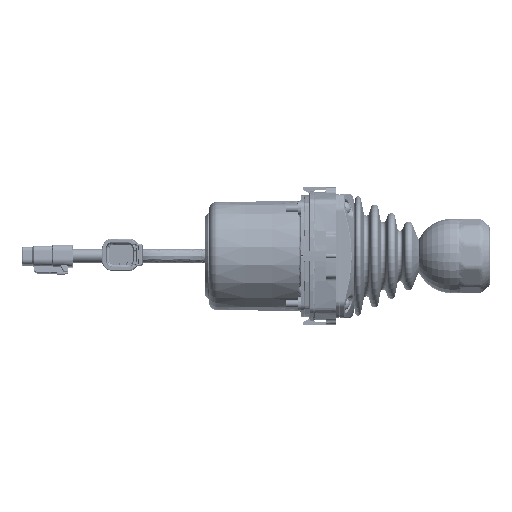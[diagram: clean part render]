
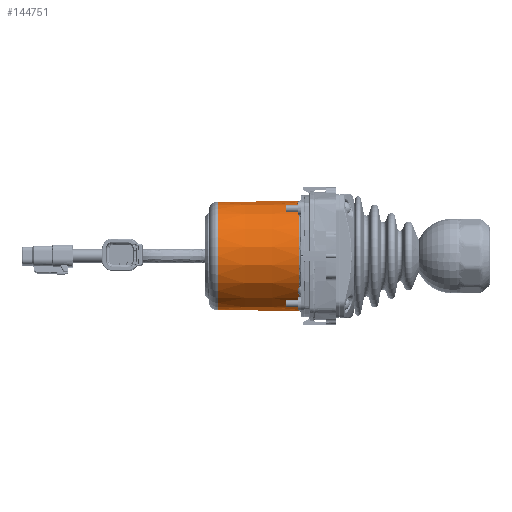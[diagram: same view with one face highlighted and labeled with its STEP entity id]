
A CAD part, left-side view. The second image highlights one B-rep face of the part: STEP entity #144751.
In plain terms, the highlighted conical face has half-angle 0.231 degrees and reference radius 32.494 mm.
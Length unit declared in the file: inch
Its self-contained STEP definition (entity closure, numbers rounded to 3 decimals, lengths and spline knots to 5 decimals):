
#1269 = CARTESIAN_POINT ( 'NONE',  ( 0., 2.01268, -1.27165 ) ) ;
#2420 = VERTEX_POINT ( 'NONE', #32521 ) ;
#4749 = EDGE_CURVE ( 'NONE', #234626, #244346, #249786, .T. ) ;
#6561 = VERTEX_POINT ( 'NONE', #298142 ) ;
#10731 = EDGE_CURVE ( 'NONE', #6561, #2420, #40371, .T. ) ;
#11442 = FACE_OUTER_BOUND ( 'NONE', #199676, .T. ) ;
#30932 = CARTESIAN_POINT ( 'NONE',  ( 0., 0.11787, -1.27929 ) ) ;
#32521 = CARTESIAN_POINT ( 'NONE',  ( 1.27929, 0.11787, 0. ) ) ;
#38034 = ORIENTED_EDGE ( 'NONE', *, *, #4749, .T. ) ;
#40371 = LINE ( 'NONE', #112363, #102627 ) ;
#51050 = CARTESIAN_POINT ( 'NONE',  ( 0., 2.01268, 0. ) ) ;
#51384 = CARTESIAN_POINT ( 'NONE',  ( -1.27929, 0.11787, 0. ) ) ;
#74549 = DIRECTION ( 'NONE',  ( 1., 0., 0. ) ) ;
#75632 = CARTESIAN_POINT ( 'NONE',  ( 0., 2.01268, 0. ) ) ;
#91966 = CONICAL_SURFACE ( 'NONE', #114023, 1.27929, 0.004 ) ;
#92901 = AXIS2_PLACEMENT_3D ( 'NONE', #237116, #96878, #260648 ) ;
#95915 = EDGE_CURVE ( 'NONE', #244346, #6561, #147343, .T. ) ;
#96878 = DIRECTION ( 'NONE',  ( 0., 1., 0. ) ) ;
#99199 = DIRECTION ( 'NONE',  ( 1., 0., 0. ) ) ;
#100961 = DIRECTION ( 'NONE',  ( 1., 0., 0. ) ) ;
#102627 = VECTOR ( 'NONE', #252544, 39.37008 ) ;
#106687 = CARTESIAN_POINT ( 'NONE',  ( -1.27929, 0.11787, 0. ) ) ;
#112363 = CARTESIAN_POINT ( 'NONE',  ( 1.27929, 0.11787, 0. ) ) ;
#114023 = AXIS2_PLACEMENT_3D ( 'NONE', #241157, #263673, #100961 ) ;
#119109 = DIRECTION ( 'NONE',  ( 0., 1., 0. ) ) ;
#136516 = CIRCLE ( 'NONE', #225546, 1.27929 ) ;
#144751 = ADVANCED_FACE ( 'NONE', ( #11442 ), #91966, .T. ) ;
#147343 = CIRCLE ( 'NONE', #266949, 1.27165 ) ;
#159401 = LINE ( 'NONE', #51384, #283867 ) ;
#181972 = ORIENTED_EDGE ( 'NONE', *, *, #275186, .F. ) ;
#189835 = EDGE_CURVE ( 'NONE', #272238, #205790, #136516, .T. ) ;
#199676 = EDGE_LOOP ( 'NONE', ( #181972, #38034, #259682, #248421, #251794, #293657 ) ) ;
#205790 = VERTEX_POINT ( 'NONE', #106687 ) ;
#214656 = DIRECTION ( 'NONE',  ( 0., -1., 0. ) ) ;
#215021 = DIRECTION ( 'NONE',  ( -0.004, -1., 0. ) ) ;
#216363 = EDGE_CURVE ( 'NONE', #2420, #272238, #226772, .T. ) ;
#225546 = AXIS2_PLACEMENT_3D ( 'NONE', #259294, #119109, #282868 ) ;
#226772 = CIRCLE ( 'NONE', #92901, 1.27929 ) ;
#234626 = VERTEX_POINT ( 'NONE', #285469 ) ;
#237116 = CARTESIAN_POINT ( 'NONE',  ( 0., 0.11787, 0. ) ) ;
#239394 = DIRECTION ( 'NONE',  ( 0., -1., 0. ) ) ;
#241157 = CARTESIAN_POINT ( 'NONE',  ( 0., 0.11787, 0. ) ) ;
#244346 = VERTEX_POINT ( 'NONE', #1269 ) ;
#248421 = ORIENTED_EDGE ( 'NONE', *, *, #10731, .T. ) ;
#249786 = CIRCLE ( 'NONE', #276766, 1.27165 ) ;
#251794 = ORIENTED_EDGE ( 'NONE', *, *, #216363, .T. ) ;
#252544 = DIRECTION ( 'NONE',  ( 0.004, -1., 0. ) ) ;
#259294 = CARTESIAN_POINT ( 'NONE',  ( 0., 0.11787, 0. ) ) ;
#259682 = ORIENTED_EDGE ( 'NONE', *, *, #95915, .T. ) ;
#260648 = DIRECTION ( 'NONE',  ( 1., 0., 0. ) ) ;
#263673 = DIRECTION ( 'NONE',  ( 0., -1., 0. ) ) ;
#266949 = AXIS2_PLACEMENT_3D ( 'NONE', #51050, #214656, #74549 ) ;
#272238 = VERTEX_POINT ( 'NONE', #30932 ) ;
#275186 = EDGE_CURVE ( 'NONE', #234626, #205790, #159401, .T. ) ;
#276766 = AXIS2_PLACEMENT_3D ( 'NONE', #75632, #239394, #99199 ) ;
#282868 = DIRECTION ( 'NONE',  ( 1., 0., 0. ) ) ;
#283867 = VECTOR ( 'NONE', #215021, 39.37008 ) ;
#285469 = CARTESIAN_POINT ( 'NONE',  ( -1.27165, 2.01268, 0. ) ) ;
#293657 = ORIENTED_EDGE ( 'NONE', *, *, #189835, .T. ) ;
#298142 = CARTESIAN_POINT ( 'NONE',  ( 1.27165, 2.01268, 0. ) ) ;
